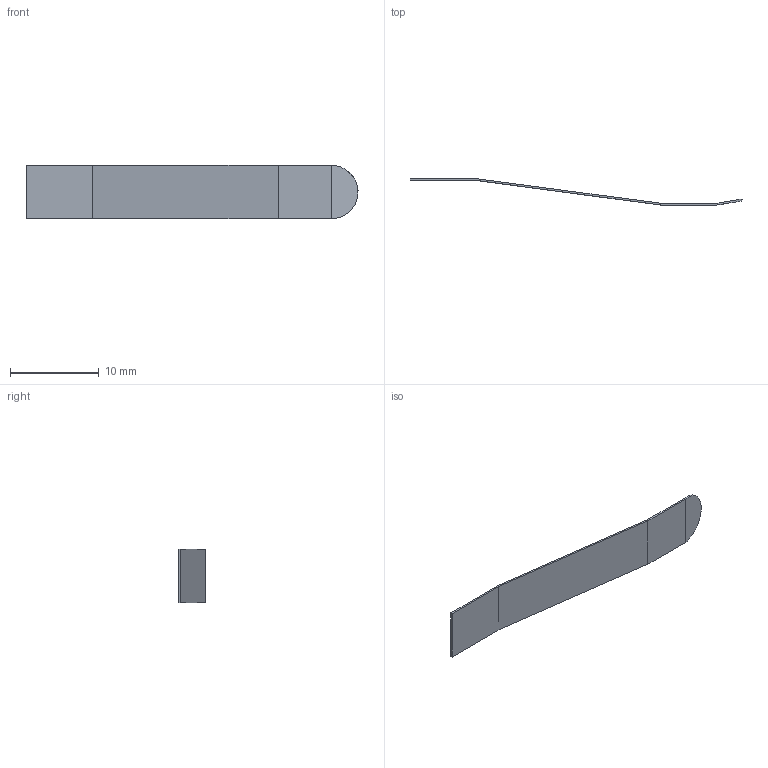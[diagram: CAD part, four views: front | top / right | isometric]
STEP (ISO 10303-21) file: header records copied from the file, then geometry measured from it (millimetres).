
FILE_DESCRIPTION(/* description */ ('Прижим'),/* implementation_level */ '2;1');
FILE_NAME(/* name */ 'D:\ \Работа\JuniorSkills\2018\ОтборочныйЗадание\Микроскоп\STEP\Прижим.stp',/* time_stamp */ '2017-11-09T06:45:42+07:00',/* author */ ('Andrey'),/* organization */ (''),/* preprocessor_version */ 'ST-DEVELOPER v15.6',/* originating_system */ 'Autodesk Inventor 2015',/* authorisation */ '');
FILE_SCHEMA (('AUTOMOTIVE_DESIGN { 1 0 10303 214 3 1 1 }'));
Length unit declared in the file: millimetre
Products named in the file (1): Прижим
Bounding box: 37.49 x 3 x 6 mm (x, y, z)
Volume: 44.5 mm3; surface area: 461.9 mm2
Topology: 1 solids, 1 shells, 12 faces, 28 edges, 18 vertices
Faces by surface type: plane 11, cylinder 1
Entity records: 364 total; most frequent: CARTESIAN_POINT 59, DIRECTION 58, ORIENTED_EDGE 56, EDGE_CURVE 28, LINE 24, VECTOR 24, VERTEX_POINT 18, AXIS2_PLACEMENT_3D 17
